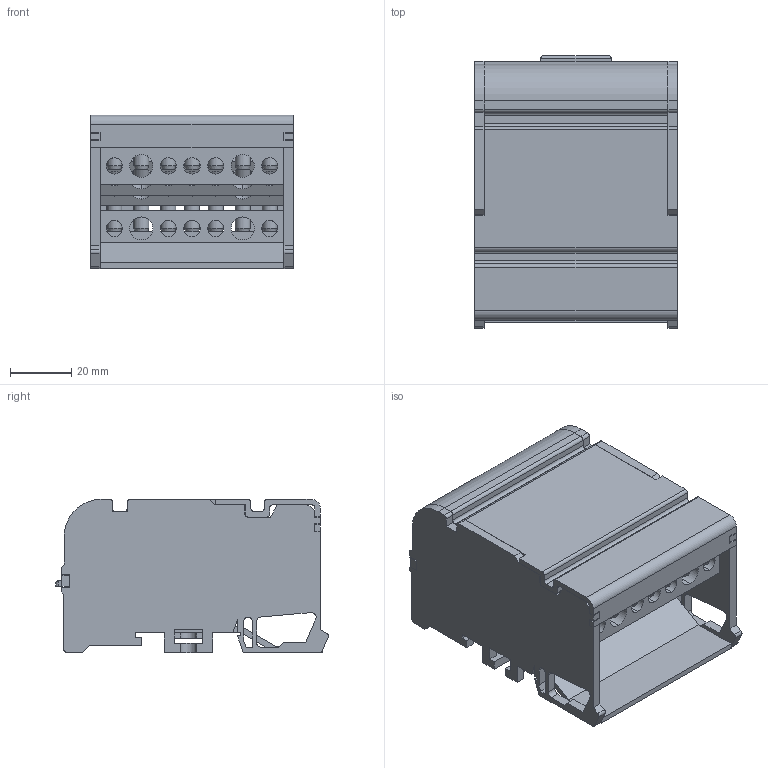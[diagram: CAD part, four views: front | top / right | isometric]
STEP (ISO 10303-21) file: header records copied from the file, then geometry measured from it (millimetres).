
FILE_DESCRIPTION (( 'STEP AP203' ), '1' );
FILE_NAME ('sn0-4x7 Øèíà íóëåâàÿ â êîðïóñå (4õ7).STEP', '2017-02-22T16:25:20', ( 'kuryshev' ), ( '' ), 'SwSTEP 2.0', 'SolidWorks 2010', '' );
FILE_SCHEMA (( 'CONFIG_CONTROL_DESIGN' ));
Products named in the file (1): sn0-4x7 Øèíà íóëåâàÿ â êîðïóñå (4õ7)
Bounding box: 66 x 88.93 x 50 mm (x, y, z)
Volume: 71593.9 mm3; surface area: 71160 mm2
Topology: 36 solids, 36 shells, 1252 faces, 3408 edges, 2192 vertices
Faces by surface type: plane 804, cylinder 280, torus 112, cone 56
Entity records: 41343 total; most frequent: CARTESIAN_POINT 9139, ORIENTED_EDGE 6816, DIRECTION 6604, EDGE_CURVE 3408, LINE 2266, VECTOR 2266, VERTEX_POINT 2192, AXIS2_PLACEMENT_3D 2169
